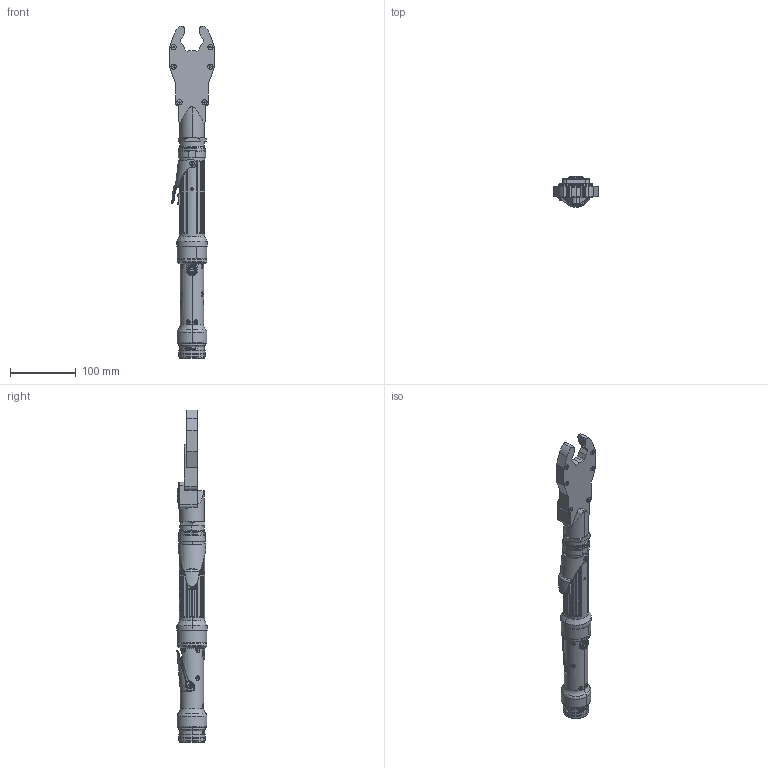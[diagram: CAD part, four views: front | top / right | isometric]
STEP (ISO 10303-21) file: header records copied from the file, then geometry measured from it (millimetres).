
FILE_DESCRIPTION (( 'STEP AP214' ), '1' );
FILE_NAME ('AET32050CDL.STEP', '2016-04-19T21:47:27', ( 'AIMCO' ), ( '' ), 'SwSTEP 2.0', 'SolidWorks 2016', '' );
FILE_SCHEMA (( 'AUTOMOTIVE_DESIGN' ));
Length unit declared in the file: inch
Products named in the file (1): AET32050CDL
Bounding box: 68 x 46.99 x 505.2 mm (x, y, z)
Surface area: 104819.1 mm2 (no closed solid volume)
Topology: 0 solids, 119 shells, 998 faces, 3676 edges, 2668 vertices
Faces by surface type: plane 287, cylinder 271, cone 141, torus 136, bspline 125, sphere 38
Entity records: 69044 total; most frequent: CARTESIAN_POINT 27709, ORIENTED_EDGE 5410, DIRECTION 5387, EDGE_CURVE 3614, VERTEX_POINT 2638, AXIS2_PLACEMENT_3D 2063, VECTOR 1261, LINE 1261
